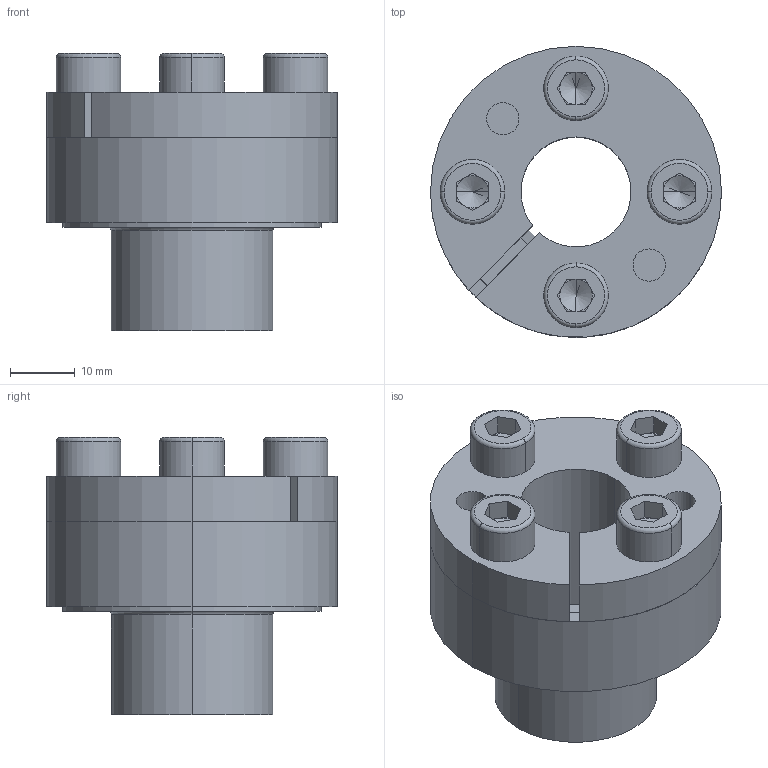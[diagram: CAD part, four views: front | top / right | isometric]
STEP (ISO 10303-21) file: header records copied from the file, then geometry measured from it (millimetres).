
FILE_DESCRIPTION (( 'STEP AP214' ), '1' );
FILE_NAME ('CONEX-B-17x25.step', '2013-04-04T12:41:22', ( 'Pc' ), ( '' ), 'SwSTEP 2.0', 'SolidWorks 2013', '' );
FILE_SCHEMA (( 'AUTOMOTIVE_DESIGN' ));
Length unit declared in the file: millimetre
Products named in the file (1): CONEX-B-17x25
Bounding box: 45 x 45 x 42.84 mm (x, y, z)
Volume: 29054.3 mm3; surface area: 21109.2 mm2
Topology: 7 solids, 7 shells, 174 faces, 414 edges, 250 vertices
Faces by surface type: plane 72, cylinder 52, torus 24, cone 22, bspline 4
Entity records: 7198 total; most frequent: CARTESIAN_POINT 1045, DIRECTION 942, ORIENTED_EDGE 812, EDGE_CURVE 406, AXIS2_PLACEMENT_3D 379, VERTEX_POINT 250, CIRCLE 208, EDGE_LOOP 200
